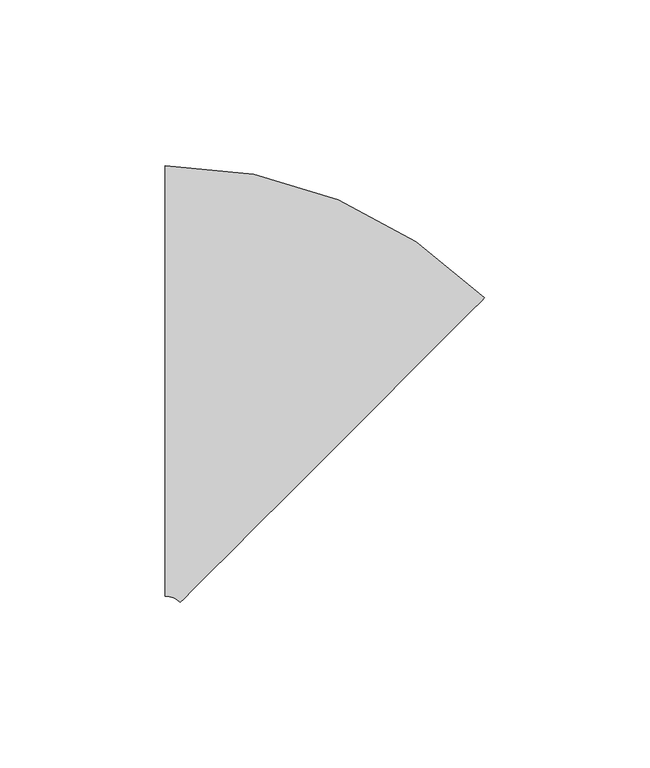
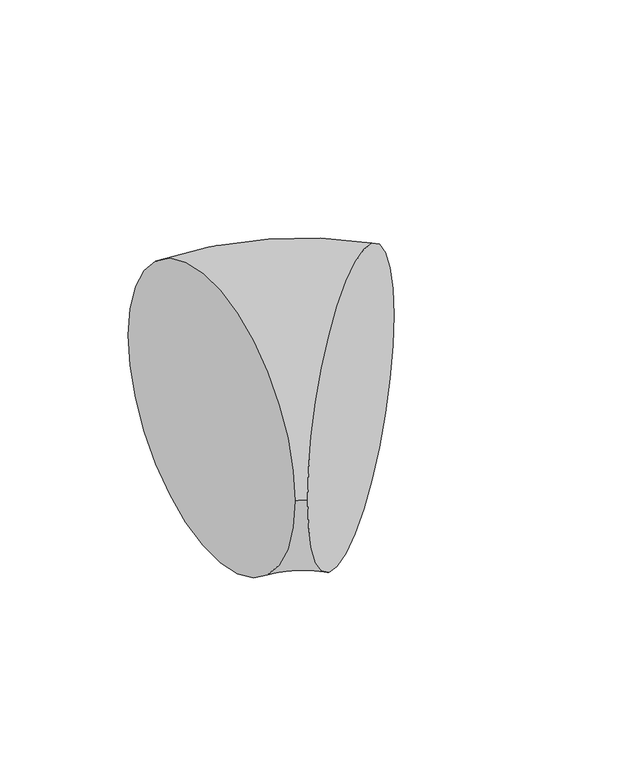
"""IFC4 building model written with IfcOpenShell, lengths in millimetres: pipe fitting geometry, M_Codo - Genérico : Estándar."""

from ifc_helpers import new_model, si_unit, point, frame, origin, place, context, project, spatial, circle_curve, ellipse_curve, trimmed, source, transform, mapped, element, save
from ifc_brep_helpers import plane_surface, revolved_surface, advanced_brep


def pipe_fitting_550a3bf4(model_context):
    return source(origin(), model_context, "Body", "AdvancedBrep", [
        advanced_brep(
        [(-29.5783555, 65.0875, 0.0), (-29.5783555, -65.0875, 0.0), (66.9316495, 25.1279936, 0.0), (-25.0895181, -66.9460817, 0.0)],
        [
            (0, 1, circle_curve(frame((-29.5783555, 0.0, 0.0), z_axis=(-1.0, 0.0, 0.0), x_axis=(0.0, -1.0, 0.0)), 65.0875)),
            (1, 0, circle_curve(frame((-29.5783555, 0.0, 0.0), z_axis=(-1.0, 0.0, 0.0), x_axis=(0.0, -1.0, 0.0)), 65.0875)),
            (2, 3, circle_curve(frame((20.9210657, -20.909044, 0.0), z_axis=(0.7073099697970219, -0.7069035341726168, 0.0), x_axis=(-0.7069035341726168, -0.7073099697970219, 0.0)), 65.0875)),
            (3, 2, circle_curve(frame((20.9210657, -20.909044, 0.0), z_axis=(0.7073099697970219, -0.7069035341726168, 0.0), x_axis=(-0.7069035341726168, -0.7073099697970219, 0.0)), 65.0875)),
            (2, 0, circle_curve(frame((-29.5783555, -71.4375, 0.0), z_axis=(0.0, 0.0, 1.0), x_axis=(0.0, 1.0, 0.0)), 136.525)),
            (1, 3, circle_curve(frame((-29.5783555, -71.4375, 0.0), z_axis=(0.0, 0.0, -1.0), x_axis=(0.0, 1.0, 0.0)), 6.35)),
        ],
        [
            plane_surface(frame((-29.5783555, 0.0, 0.0), z_axis=(-1.0, 0.0, 0.0), x_axis=(0.0, 0.0, 1.0))),
            plane_surface(frame((20.9210657, -20.909044, 0.0), z_axis=(0.7073099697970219, -0.7069035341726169, 0.0), x_axis=(0.0, 0.0, 1.0))),
            revolved_surface(trimmed(ellipse_curve(frame((-29.5783555, 0.0, 0.0), z_axis=(1.0, 0.0, 0.0), x_axis=(0.0, -1.0, 0.0)), 65.0875, 65.0875), [point((-29.5783555, 65.0875, 0.0))], [point((-29.5783555, -65.0875, 0.0))], True, "CARTESIAN"), (-29.5783555, -71.4375, 0.0), (0.0, 0.0, 1.0)),
            revolved_surface(trimmed(ellipse_curve(frame((-29.5783555, 0.0, 0.0), z_axis=(1.0, 0.0, 0.0), x_axis=(0.0, -1.0, 0.0)), 65.0875, 65.0875), [point((-29.5783555, -65.0875, 0.0))], [point((-29.5783555, 65.0875, 0.0))], True, "CARTESIAN"), (-29.5783555, -71.4375, 0.0), (0.0, 0.0, 1.0)),
        ],
        [
            (0, [[1, 2]]),
            (1, [[3, 4]]),
            (2, [[-3, 5, -2, 6]]),
            (3, [[-4, -6, -1, -5]]),
        ],
    ),
    ])


if __name__ == "__main__":
    model = new_model("IFC4")
    model_context = context("Model", 3, world=origin())
    ifc_project = project(units=[si_unit("LENGTHUNIT", "METRE", prefix="MILLI")], contexts=[model_context])
    site = spatial("IfcSite", under=ifc_project)
    building = spatial("IfcBuilding", under=site)
    placement = place(None, origin())
    pipe_fitting_shape = pipe_fitting_550a3bf4(model_context)
    element("IfcPipeFitting", 1, ObjectType="M_Codo - Genérico : Estándar", at=placement, inside=building, context=model_context, shape_type="MappedRepresentation", body=[
        mapped(pipe_fitting_shape, transform((0.0, 0.0, 0.0), x_axis=(1.0, 0.0, 0.0), y_axis=(0.0, 1.0, 0.0), z_axis=(0.0, 0.0, 1.0))),
    ])
    save(model, "model.ifc")
